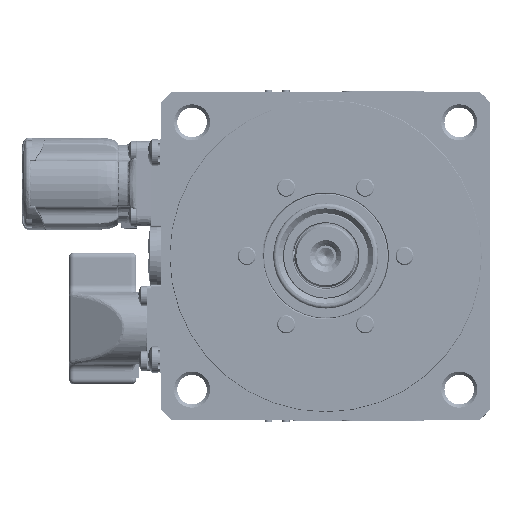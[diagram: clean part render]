
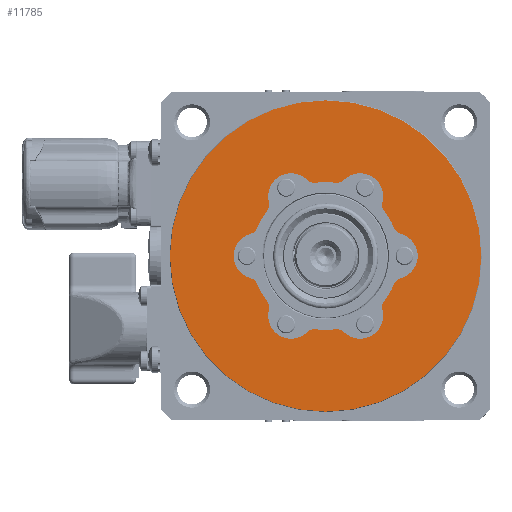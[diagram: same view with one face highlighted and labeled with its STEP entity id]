
A CAD part, left-side view. The second image highlights one B-rep face of the part: STEP entity #11785.
In plain terms, the highlighted planar face has unit normal (-1, 0, 0).
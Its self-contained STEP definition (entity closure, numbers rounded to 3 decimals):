
#186=CARTESIAN_POINT('',(1.,0.,
0.));
#187=DIRECTION('',(-1.,0.,0.));
#188=DIRECTION('',(0.,1.,0.));
#189=AXIS2_PLACEMENT_3D('',#186,#187,#188);
#194=CARTESIAN_POINT('',(1.,0.,
0.));
#195=DIRECTION('',(-1.,0.,0.));
#196=DIRECTION('',(0.,-1.,0.));
#197=AXIS2_PLACEMENT_3D('',#194,#195,#196);
#202=CARTESIAN_POINT('',(1.,0.,0.));
#203=DIRECTION('',(-1.,0.,0.));
#204=DIRECTION('',(0.,0.926,-0.379));
#205=AXIS2_PLACEMENT_3D('',#202,#203,#204);
#232=CARTESIAN_POINT('',(1.,0.,0.));
#233=DIRECTION('',(-1.,0.,0.));
#234=DIRECTION('',(0.,0.135,-0.991));
#235=AXIS2_PLACEMENT_3D('',#232,#233,#234);
#262=CARTESIAN_POINT('',(1.,0.,0.));
#263=DIRECTION('',(-1.,0.,0.));
#264=DIRECTION('',(0.,-0.791,-0.612));
#265=AXIS2_PLACEMENT_3D('',#262,#263,#264);
#292=CARTESIAN_POINT('',(1.,0.,0.));
#293=DIRECTION('',(-1.,0.,0.));
#294=DIRECTION('',(0.,-0.926,0.379));
#295=AXIS2_PLACEMENT_3D('',#292,#293,#294);
#322=CARTESIAN_POINT('',(1.,0.,0.));
#323=DIRECTION('',(-1.,0.,0.));
#324=DIRECTION('',(0.,-0.135,0.991));
#325=AXIS2_PLACEMENT_3D('',#322,#323,#324);
#359=CARTESIAN_POINT('',(1.,0.,0.));
#360=DIRECTION('',(-1.,0.,0.));
#361=DIRECTION('',(0.,0.791,0.612));
#362=AXIS2_PLACEMENT_3D('',#359,#360,#361);
#382=CARTESIAN_POINT('',(1.,23.601,-9.656));
#383=DIRECTION('',(-1.,0.,0.));
#384=DIRECTION('',(0.,-0.926,0.379));
#385=AXIS2_PLACEMENT_3D('',#382,#383,#384);
#398=CARTESIAN_POINT('',(1.,21.,0.));
#399=DIRECTION('',(-1.,0.,0.));
#400=DIRECTION('',(0.,0.26,0.966));
#401=AXIS2_PLACEMENT_3D('',#398,#399,#400);
#420=CARTESIAN_POINT('',(1.,23.601,9.656));
#421=DIRECTION('',(1.,0.,0.));
#422=DIRECTION('',(0.,-0.926,-0.379));
#423=AXIS2_PLACEMENT_3D('',#420,#421,#422);
#596=CARTESIAN_POINT('',(1.,20.163,15.611));
#597=DIRECTION('',(-1.,0.,0.));
#598=DIRECTION('',(0.,-0.791,-0.612));
#599=AXIS2_PLACEMENT_3D('',#596,#597,#598);
#612=CARTESIAN_POINT('',(1.,10.5,18.187));
#613=DIRECTION('',(-1.,0.,0.));
#614=DIRECTION('',(0.,-0.706,0.708));
#615=AXIS2_PLACEMENT_3D('',#612,#613,#614);
#634=CARTESIAN_POINT('',(1.,3.438,25.267));
#635=DIRECTION('',(1.,0.,0.));
#636=DIRECTION('',(0.,-0.135,-0.991));
#637=AXIS2_PLACEMENT_3D('',#634,#635,#636);
#650=CARTESIAN_POINT('',(1.,-3.438,25.267));
#651=DIRECTION('',(-1.,0.,0.));
#652=DIRECTION('',(0.,0.135,-0.991));
#653=AXIS2_PLACEMENT_3D('',#650,#651,#652);
#666=CARTESIAN_POINT('',(1.,-10.5,18.187));
#667=DIRECTION('',(-1.,0.,0.));
#668=DIRECTION('',(0.,-0.966,-0.258));
#669=AXIS2_PLACEMENT_3D('',#666,#667,#668);
#688=CARTESIAN_POINT('',(1.,-20.163,15.611));
#689=DIRECTION('',(1.,0.,0.));
#690=DIRECTION('',(0.,0.791,-0.612));
#691=AXIS2_PLACEMENT_3D('',#688,#689,#690);
#704=CARTESIAN_POINT('',(1.,-23.601,9.656));
#705=DIRECTION('',(-1.,0.,0.));
#706=DIRECTION('',(0.,0.926,-0.379));
#707=AXIS2_PLACEMENT_3D('',#704,#705,#706);
#720=CARTESIAN_POINT('',(1.,-21.,0.));
#721=DIRECTION('',(-1.,0.,0.));
#722=DIRECTION('',(0.,-0.26,-0.966));
#723=AXIS2_PLACEMENT_3D('',#720,#721,#722);
#742=CARTESIAN_POINT('',(1.,-23.601,-9.656));
#743=DIRECTION('',(1.,0.,0.));
#744=DIRECTION('',(0.,0.926,0.379));
#745=AXIS2_PLACEMENT_3D('',#742,#743,#744);
#758=CARTESIAN_POINT('',(1.,-20.163,-15.611));
#759=DIRECTION('',(-1.,0.,0.));
#760=DIRECTION('',(0.,0.791,0.612));
#761=AXIS2_PLACEMENT_3D('',#758,#759,#760);
#774=CARTESIAN_POINT('',(1.,-10.5,-18.187));
#775=DIRECTION('',(-1.,0.,0.));
#776=DIRECTION('',(0.,0.706,-0.708));
#777=AXIS2_PLACEMENT_3D('',#774,#775,#776);
#796=CARTESIAN_POINT('',(1.,-3.438,-25.267));
#797=DIRECTION('',(1.,0.,0.));
#798=DIRECTION('',(0.,0.135,0.991));
#799=AXIS2_PLACEMENT_3D('',#796,#797,#798);
#812=CARTESIAN_POINT('',(1.,3.438,-25.267));
#813=DIRECTION('',(-1.,0.,0.));
#814=DIRECTION('',(0.,-0.135,0.991));
#815=AXIS2_PLACEMENT_3D('',#812,#813,#814);
#828=CARTESIAN_POINT('',(1.,10.5,-18.187));
#829=DIRECTION('',(-1.,0.,0.));
#830=DIRECTION('',(0.,0.966,0.258));
#831=AXIS2_PLACEMENT_3D('',#828,#829,#830);
#850=CARTESIAN_POINT('',(1.,20.163,-15.611));
#851=DIRECTION('',(1.,0.,0.));
#852=DIRECTION('',(0.,-0.791,0.612));
#853=AXIS2_PLACEMENT_3D('',#850,#851,#852);
#10707=CARTESIAN_POINT('',(1.,47.361,0.));
#10708=CARTESIAN_POINT('',(1.,-47.361,0.));
#10709=VERTEX_POINT('',#10707);
#10710=VERTEX_POINT('',#10708);
#10839=CARTESIAN_POINT('',(1.,20.825,-8.52));
#10840=CARTESIAN_POINT('',(1.,17.791,-13.775));
#10841=VERTEX_POINT('',#10839);
#10842=VERTEX_POINT('',#10840);
#10843=CARTESIAN_POINT('',(1.,3.034,-22.295));
#10844=CARTESIAN_POINT('',(1.,-3.034,-22.295));
#10845=VERTEX_POINT('',#10843);
#10846=VERTEX_POINT('',#10844);
#10847=CARTESIAN_POINT('',(1.,-17.791,-13.775));
#10848=CARTESIAN_POINT('',(1.,-20.825,-8.52));
#10849=VERTEX_POINT('',#10847);
#10850=VERTEX_POINT('',#10848);
#10851=CARTESIAN_POINT('',(1.,-20.825,8.52));
#10852=CARTESIAN_POINT('',(1.,-17.791,13.775));
#10853=VERTEX_POINT('',#10851);
#10854=VERTEX_POINT('',#10852);
#10855=CARTESIAN_POINT('',(1.,-3.034,22.295));
#10856=CARTESIAN_POINT('',(1.,3.034,22.295));
#10857=VERTEX_POINT('',#10855);
#10858=VERTEX_POINT('',#10856);
#10859=CARTESIAN_POINT('',(1.,22.821,6.759));
#10860=CARTESIAN_POINT('',(1.,22.821,-6.759));
#10861=VERTEX_POINT('',#10859);
#10862=VERTEX_POINT('',#10860);
#10863=CARTESIAN_POINT('',(1.,17.264,-16.384));
#10864=CARTESIAN_POINT('',(1.,5.557,-23.143));
#10865=VERTEX_POINT('',#10863);
#10866=VERTEX_POINT('',#10864);
#10867=CARTESIAN_POINT('',(1.,-5.557,-23.143));
#10868=CARTESIAN_POINT('',(1.,-17.264,-16.384));
#10869=VERTEX_POINT('',#10867);
#10870=VERTEX_POINT('',#10868);
#10871=CARTESIAN_POINT('',(1.,-22.821,-6.759));
#10872=CARTESIAN_POINT('',(1.,-22.821,6.759));
#10873=VERTEX_POINT('',#10871);
#10874=VERTEX_POINT('',#10872);
#10875=CARTESIAN_POINT('',(1.,-17.264,16.384));
#10876=CARTESIAN_POINT('',(1.,-5.557,23.143));
#10877=VERTEX_POINT('',#10875);
#10878=VERTEX_POINT('',#10876);
#10927=CARTESIAN_POINT('',(1.,20.825,8.52));
#10928=VERTEX_POINT('',#10927);
#11069=CARTESIAN_POINT('',(1.,17.791,13.775));
#11070=VERTEX_POINT('',#11069);
#11071=CARTESIAN_POINT('',(1.,5.557,23.143));
#11072=CARTESIAN_POINT('',(1.,17.264,16.384));
#11073=VERTEX_POINT('',#11071);
#11074=VERTEX_POINT('',#11072);
#11726=CARTESIAN_POINT('',(1.,0.,0.));
#11727=DIRECTION('',(1.,0.,0.));
#11728=DIRECTION('',(0.,-1.,0.));
#11729=AXIS2_PLACEMENT_3D('',#11726,#11727,#11728);
#11730=PLANE('',#11729);
#11731=ORIENTED_EDGE('',*,*,#11721,.F.);
#11732=ORIENTED_EDGE('',*,*,#11705,.F.);
#11733=EDGE_LOOP('',(#11731,#11732));
#11734=FACE_OUTER_BOUND('',#11733,.F.);
#11736=ORIENTED_EDGE('',*,*,#11735,.T.);
#11738=ORIENTED_EDGE('',*,*,#11737,.T.);
#11740=ORIENTED_EDGE('',*,*,#11739,.T.);
#11742=ORIENTED_EDGE('',*,*,#11741,.F.);
#11744=ORIENTED_EDGE('',*,*,#11743,.T.);
#11746=ORIENTED_EDGE('',*,*,#11745,.T.);
#11748=ORIENTED_EDGE('',*,*,#11747,.T.);
#11750=ORIENTED_EDGE('',*,*,#11749,.F.);
#11752=ORIENTED_EDGE('',*,*,#11751,.T.);
#11754=ORIENTED_EDGE('',*,*,#11753,.T.);
#11756=ORIENTED_EDGE('',*,*,#11755,.T.);
#11758=ORIENTED_EDGE('',*,*,#11757,.F.);
#11760=ORIENTED_EDGE('',*,*,#11759,.T.);
#11762=ORIENTED_EDGE('',*,*,#11761,.T.);
#11764=ORIENTED_EDGE('',*,*,#11763,.T.);
#11766=ORIENTED_EDGE('',*,*,#11765,.F.);
#11768=ORIENTED_EDGE('',*,*,#11767,.T.);
#11770=ORIENTED_EDGE('',*,*,#11769,.T.);
#11772=ORIENTED_EDGE('',*,*,#11771,.T.);
#11774=ORIENTED_EDGE('',*,*,#11773,.F.);
#11776=ORIENTED_EDGE('',*,*,#11775,.T.);
#11778=ORIENTED_EDGE('',*,*,#11777,.T.);
#11780=ORIENTED_EDGE('',*,*,#11779,.T.);
#11782=ORIENTED_EDGE('',*,*,#11781,.F.);
#11783=EDGE_LOOP('',(#11736,#11738,#11740,#11742,#11744,#11746,#11748,#11750,
#11752,#11754,#11756,#11758,#11760,#11762,#11764,#11766,#11768,#11770,#11772,
#11774,#11776,#11778,#11780,#11782));
#11784=FACE_BOUND('',#11783,.F.);
#190=CIRCLE('',#189,47.361);
#198=CIRCLE('',#197,47.361);
#206=CIRCLE('',#205,22.5);
#236=CIRCLE('',#235,22.5);
#266=CIRCLE('',#265,22.5);
#296=CIRCLE('',#295,22.5);
#326=CIRCLE('',#325,22.5);
#363=CIRCLE('',#362,22.5);
#386=CIRCLE('',#385,3.);
#402=CIRCLE('',#401,7.);
#424=CIRCLE('',#423,3.);
#600=CIRCLE('',#599,3.);
#616=CIRCLE('',#615,7.);
#638=CIRCLE('',#637,3.);
#654=CIRCLE('',#653,3.);
#670=CIRCLE('',#669,7.);
#692=CIRCLE('',#691,3.);
#708=CIRCLE('',#707,3.);
#724=CIRCLE('',#723,7.);
#746=CIRCLE('',#745,3.);
#762=CIRCLE('',#761,3.);
#778=CIRCLE('',#777,7.);
#800=CIRCLE('',#799,3.);
#816=CIRCLE('',#815,3.);
#832=CIRCLE('',#831,7.);
#854=CIRCLE('',#853,3.);
#11705=EDGE_CURVE('',#10710,#10709,#198,.T.);
#11721=EDGE_CURVE('',#10709,#10710,#190,.T.);
#11735=EDGE_CURVE('',#10841,#10842,#206,.T.);
#11737=EDGE_CURVE('',#10842,#10865,#854,.T.);
#11739=EDGE_CURVE('',#10865,#10866,#832,.T.);
#11741=EDGE_CURVE('',#10845,#10866,#816,.T.);
#11743=EDGE_CURVE('',#10845,#10846,#236,.T.);
#11745=EDGE_CURVE('',#10846,#10869,#800,.T.);
#11747=EDGE_CURVE('',#10869,#10870,#778,.T.);
#11749=EDGE_CURVE('',#10849,#10870,#762,.T.);
#11751=EDGE_CURVE('',#10849,#10850,#266,.T.);
#11753=EDGE_CURVE('',#10850,#10873,#746,.T.);
#11755=EDGE_CURVE('',#10873,#10874,#724,.T.);
#11757=EDGE_CURVE('',#10853,#10874,#708,.T.);
#11759=EDGE_CURVE('',#10853,#10854,#296,.T.);
#11761=EDGE_CURVE('',#10854,#10877,#692,.T.);
#11763=EDGE_CURVE('',#10877,#10878,#670,.T.);
#11765=EDGE_CURVE('',#10857,#10878,#654,.T.);
#11767=EDGE_CURVE('',#10857,#10858,#326,.T.);
#11769=EDGE_CURVE('',#10858,#11073,#638,.T.);
#11771=EDGE_CURVE('',#11073,#11074,#616,.T.);
#11773=EDGE_CURVE('',#11070,#11074,#600,.T.);
#11775=EDGE_CURVE('',#11070,#10928,#363,.T.);
#11777=EDGE_CURVE('',#10928,#10861,#424,.T.);
#11779=EDGE_CURVE('',#10861,#10862,#402,.T.);
#11781=EDGE_CURVE('',#10841,#10862,#386,.T.);
#11785=ADVANCED_FACE('',(#11734,#11784),#11730,.F.);
